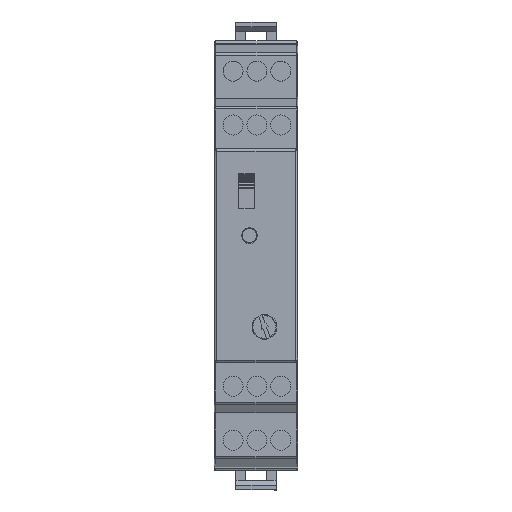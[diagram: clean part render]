
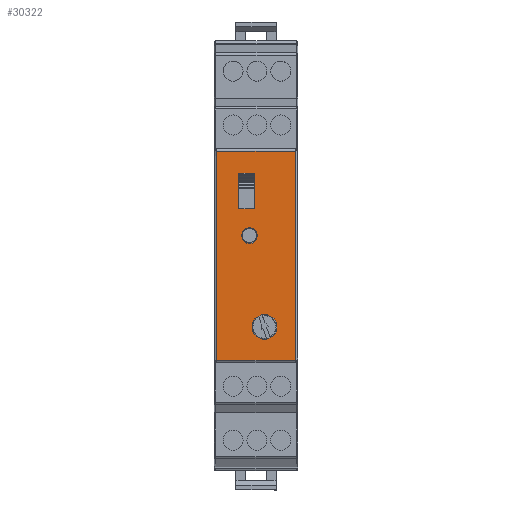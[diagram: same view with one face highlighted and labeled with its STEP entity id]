
A CAD part, top view. The second image highlights one B-rep face of the part: STEP entity #30322.
In plain terms, the highlighted planar face has unit normal (0, 0, 1).
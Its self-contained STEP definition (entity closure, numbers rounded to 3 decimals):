
#23 = VECTOR ( 'NONE', #2340, 1000. ) ;
#466 = CARTESIAN_POINT ( 'NONE',  ( 0.513, 27.115, 56.4 ) ) ;
#590 = DIRECTION ( 'NONE',  ( 1., 0., 0. ) ) ;
#1828 = VERTEX_POINT ( 'NONE', #466 ) ;
#2160 = CARTESIAN_POINT ( 'NONE',  ( 0.017, 70.889, 56.4 ) ) ;
#2340 = DIRECTION ( 'NONE',  ( 0., 1., 0. ) ) ;
#2422 = PLANE ( 'NONE',  #12591 ) ;
#2530 = ORIENTED_EDGE ( 'NONE', *, *, #4490, .T. ) ;
#2575 = EDGE_LOOP ( 'NONE', ( #23088, #32382, #20151, #5166 ) ) ;
#2595 = FACE_BOUND ( 'NONE', #22896, .T. ) ;
#4075 = LINE ( 'NONE', #6555, #14614 ) ;
#4490 = EDGE_CURVE ( 'NONE', #17243, #21682, #25072, .T. ) ;
#5166 = ORIENTED_EDGE ( 'NONE', *, *, #6671, .F. ) ;
#5187 = CARTESIAN_POINT ( 'NONE',  ( 0.513, 70.889, 56.4 ) ) ;
#5473 = VERTEX_POINT ( 'NONE', #24467 ) ;
#5679 = LINE ( 'NONE', #31067, #31151 ) ;
#6007 = LINE ( 'NONE', #10791, #18850 ) ;
#6521 = DIRECTION ( 'NONE',  ( 0., 0., 1. ) ) ;
#6555 = CARTESIAN_POINT ( 'NONE',  ( 17.483, 27.115, 56.4 ) ) ;
#6671 = EDGE_CURVE ( 'NONE', #5473, #22753, #16485, .T. ) ;
#6771 = AXIS2_PLACEMENT_3D ( 'NONE', #13937, #32105, #16751 ) ;
#6963 = CARTESIAN_POINT ( 'NONE',  ( 16.987, 70.402, 56.4 ) ) ;
#7491 = CARTESIAN_POINT ( 'NONE',  ( 0.513, 26.62, 56.4 ) ) ;
#7531 = DIRECTION ( 'NONE',  ( 1., 0., 0. ) ) ;
#7949 = VERTEX_POINT ( 'NONE', #18508 ) ;
#8171 = CARTESIAN_POINT ( 'NONE',  ( 5.13, 58.749, 56.4 ) ) ;
#8474 = DIRECTION ( 'NONE',  ( 1., 0., 0. ) ) ;
#8973 = EDGE_CURVE ( 'NONE', #32072, #7949, #23096, .T. ) ;
#9573 = LINE ( 'NONE', #2160, #17776 ) ;
#10011 = CARTESIAN_POINT ( 'NONE',  ( 16.987, 70.889, 56.4 ) ) ;
#10017 = CARTESIAN_POINT ( 'NONE',  ( 10.53, 34.049, 56.4 ) ) ;
#10677 = CARTESIAN_POINT ( 'NONE',  ( 16.987, 27.115, 56.4 ) ) ;
#10791 = CARTESIAN_POINT ( 'NONE',  ( 8.43, 66.249, 56.4 ) ) ;
#10957 = DIRECTION ( 'NONE',  ( -1., 0., 0. ) ) ;
#11289 = EDGE_CURVE ( 'NONE', #15471, #5473, #6007, .T. ) ;
#12591 = AXIS2_PLACEMENT_3D ( 'NONE', #18208, #27807, #590 ) ;
#12699 = VERTEX_POINT ( 'NONE', #24635 ) ;
#13220 = ORIENTED_EDGE ( 'NONE', *, *, #18341, .T. ) ;
#13606 = EDGE_CURVE ( 'NONE', #22753, #12699, #5679, .T. ) ;
#13919 = VECTOR ( 'NONE', #28702, 1000. ) ;
#13937 = CARTESIAN_POINT ( 'NONE',  ( 10.53, 34.049, 56.4 ) ) ;
#14531 = ORIENTED_EDGE ( 'NONE', *, *, #29197, .T. ) ;
#14614 = VECTOR ( 'NONE', #24506, 1000. ) ;
#14760 = DIRECTION ( 'NONE',  ( 0., -1., 0. ) ) ;
#14810 = DIRECTION ( 'NONE',  ( 0., 1., 0. ) ) ;
#15269 = FACE_BOUND ( 'NONE', #2575, .T. ) ;
#15314 = CARTESIAN_POINT ( 'NONE',  ( 9.043, 53.175, 56.4 ) ) ;
#15471 = VERTEX_POINT ( 'NONE', #18278 ) ;
#15840 = CARTESIAN_POINT ( 'NONE',  ( 5.13, 58.749, 56.4 ) ) ;
#16340 = CARTESIAN_POINT ( 'NONE',  ( 13.13, 34.049, 56.4 ) ) ;
#16444 = CARTESIAN_POINT ( 'NONE',  ( 7.393, 53.175, 56.4 ) ) ;
#16485 = LINE ( 'NONE', #15840, #13919 ) ;
#16751 = DIRECTION ( 'NONE',  ( 1., 0., 0. ) ) ;
#17155 = DIRECTION ( 'NONE',  ( -1., 0., 0. ) ) ;
#17243 = VERTEX_POINT ( 'NONE', #10677 ) ;
#17274 = VECTOR ( 'NONE', #14810, 1000. ) ;
#17538 = LINE ( 'NONE', #7491, #23054 ) ;
#17776 = VECTOR ( 'NONE', #17155, 1000. ) ;
#18208 = CARTESIAN_POINT ( 'NONE',  ( 16.5, 70.402, 56.4 ) ) ;
#18278 = CARTESIAN_POINT ( 'NONE',  ( 8.43, 66.249, 56.4 ) ) ;
#18341 = EDGE_CURVE ( 'NONE', #1828, #17243, #4075, .T. ) ;
#18423 = DIRECTION ( 'NONE',  ( 0., 0., 1. ) ) ;
#18508 = CARTESIAN_POINT ( 'NONE',  ( 7.93, 34.049, 56.4 ) ) ;
#18736 = ORIENTED_EDGE ( 'NONE', *, *, #19607, .F. ) ;
#18835 = EDGE_CURVE ( 'NONE', #24093, #1828, #17538, .T. ) ;
#18850 = VECTOR ( 'NONE', #10957, 1000. ) ;
#18964 = EDGE_LOOP ( 'NONE', ( #32280, #13220, #2530, #14531 ) ) ;
#19053 = EDGE_LOOP ( 'NONE', ( #24402, #18736 ) ) ;
#19607 = EDGE_CURVE ( 'NONE', #7949, #32072, #31546, .T. ) ;
#19737 = CARTESIAN_POINT ( 'NONE',  ( 8.43, 58.749, 56.4 ) ) ;
#19793 = EDGE_CURVE ( 'NONE', #31517, #32335, #23646, .T. ) ;
#20151 = ORIENTED_EDGE ( 'NONE', *, *, #13606, .F. ) ;
#21520 = AXIS2_PLACEMENT_3D ( 'NONE', #29448, #6521, #26957 ) ;
#21682 = VERTEX_POINT ( 'NONE', #10011 ) ;
#22086 = CIRCLE ( 'NONE', #27347, 1.65 ) ;
#22753 = VERTEX_POINT ( 'NONE', #8171 ) ;
#22896 = EDGE_LOOP ( 'NONE', ( #30858, #31694 ) ) ;
#23054 = VECTOR ( 'NONE', #14760, 1000. ) ;
#23088 = ORIENTED_EDGE ( 'NONE', *, *, #11289, .F. ) ;
#23096 = CIRCLE ( 'NONE', #6771, 2.6 ) ;
#23646 = CIRCLE ( 'NONE', #21520, 1.65 ) ;
#24093 = VERTEX_POINT ( 'NONE', #5187 ) ;
#24402 = ORIENTED_EDGE ( 'NONE', *, *, #8973, .F. ) ;
#24467 = CARTESIAN_POINT ( 'NONE',  ( 5.13, 66.249, 56.4 ) ) ;
#24506 = DIRECTION ( 'NONE',  ( 1., 0., 0. ) ) ;
#24635 = CARTESIAN_POINT ( 'NONE',  ( 8.43, 58.749, 56.4 ) ) ;
#25072 = LINE ( 'NONE', #6963, #23 ) ;
#25732 = AXIS2_PLACEMENT_3D ( 'NONE', #10017, #30125, #7531 ) ;
#26880 = EDGE_CURVE ( 'NONE', #32335, #31517, #22086, .T. ) ;
#26957 = DIRECTION ( 'NONE',  ( 1., 0., 0. ) ) ;
#27347 = AXIS2_PLACEMENT_3D ( 'NONE', #16444, #18423, #30967 ) ;
#27354 = LINE ( 'NONE', #19737, #17274 ) ;
#27807 = DIRECTION ( 'NONE',  ( 0., 0., 1. ) ) ;
#28288 = FACE_BOUND ( 'NONE', #19053, .T. ) ;
#28504 = CARTESIAN_POINT ( 'NONE',  ( 5.743, 53.175, 56.4 ) ) ;
#28702 = DIRECTION ( 'NONE',  ( 0., -1., 0. ) ) ;
#29197 = EDGE_CURVE ( 'NONE', #21682, #24093, #9573, .T. ) ;
#29448 = CARTESIAN_POINT ( 'NONE',  ( 7.393, 53.175, 56.4 ) ) ;
#29651 = EDGE_CURVE ( 'NONE', #12699, #15471, #27354, .T. ) ;
#30125 = DIRECTION ( 'NONE',  ( 0., 0., 1. ) ) ;
#30322 = ADVANCED_FACE ( 'NONE', ( #15269, #28288, #2595, #32616 ), #2422, .T. ) ;
#30858 = ORIENTED_EDGE ( 'NONE', *, *, #26880, .F. ) ;
#30967 = DIRECTION ( 'NONE',  ( 1., 0., 0. ) ) ;
#31067 = CARTESIAN_POINT ( 'NONE',  ( 8.43, 58.749, 56.4 ) ) ;
#31151 = VECTOR ( 'NONE', #8474, 1000. ) ;
#31517 = VERTEX_POINT ( 'NONE', #28504 ) ;
#31546 = CIRCLE ( 'NONE', #25732, 2.6 ) ;
#31694 = ORIENTED_EDGE ( 'NONE', *, *, #19793, .F. ) ;
#32072 = VERTEX_POINT ( 'NONE', #16340 ) ;
#32105 = DIRECTION ( 'NONE',  ( 0., 0., 1. ) ) ;
#32280 = ORIENTED_EDGE ( 'NONE', *, *, #18835, .T. ) ;
#32335 = VERTEX_POINT ( 'NONE', #15314 ) ;
#32382 = ORIENTED_EDGE ( 'NONE', *, *, #29651, .F. ) ;
#32616 = FACE_OUTER_BOUND ( 'NONE', #18964, .T. ) ;
